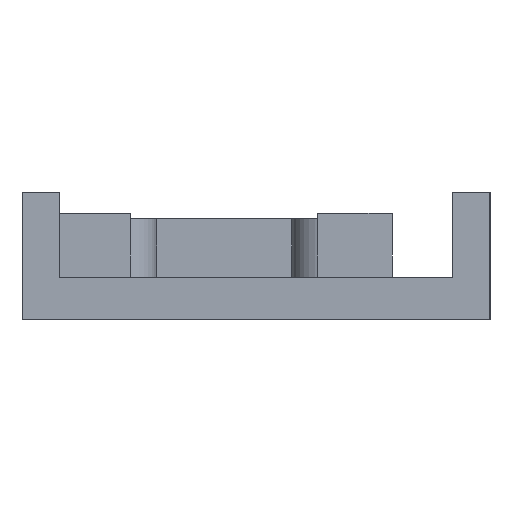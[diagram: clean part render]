
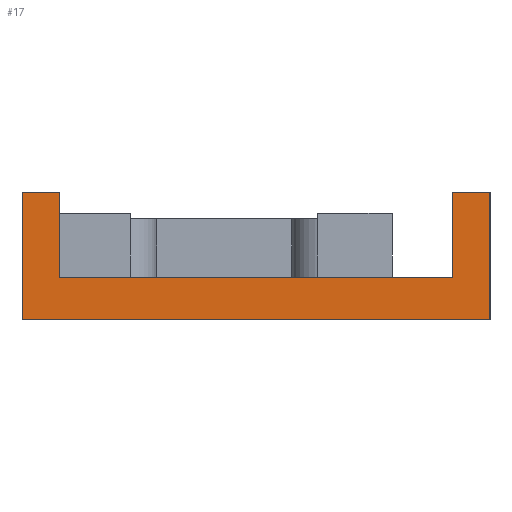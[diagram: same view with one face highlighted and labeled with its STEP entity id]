
A CAD part, left-side view. The second image highlights one B-rep face of the part: STEP entity #17.
In plain terms, the highlighted planar face has unit normal (-1, 0, 0).
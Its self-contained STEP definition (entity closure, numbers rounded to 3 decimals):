
#17 = ADVANCED_FACE('',(#18),#32,.F.);
#18 = FACE_BOUND('',#19,.F.);
#19 = EDGE_LOOP('',(#20,#55,#83,#111,#139,#167,#195,#223));
#20 = ORIENTED_EDGE('',*,*,#21,.F.);
#21 = EDGE_CURVE('',#22,#24,#26,.T.);
#22 = VERTEX_POINT('',#23);
#23 = CARTESIAN_POINT('',(-11.5,-1.1,0.));
#24 = VERTEX_POINT('',#25);
#25 = CARTESIAN_POINT('',(-11.5,-1.1,12.));
#26 = SURFACE_CURVE('',#27,(#31,#43),.PCURVE_S1.);
#27 = LINE('',#28,#29);
#28 = CARTESIAN_POINT('',(-11.5,-1.1,0.));
#29 = VECTOR('',#30,1.);
#30 = DIRECTION('',(0.,0.,1.));
#31 = PCURVE('',#32,#37);
#32 = PLANE('',#33);
#33 = AXIS2_PLACEMENT_3D('',#34,#35,#36);
#34 = CARTESIAN_POINT('',(-11.5,-1.1,0.));
#35 = DIRECTION('',(1.,0.,-0.));
#36 = DIRECTION('',(0.,0.,1.));
#37 = DEFINITIONAL_REPRESENTATION('',(#38),#42);
#38 = LINE('',#39,#40);
#39 = CARTESIAN_POINT('',(0.,0.));
#40 = VECTOR('',#41,1.);
#41 = DIRECTION('',(1.,0.));
#42 = ( GEOMETRIC_REPRESENTATION_CONTEXT(2) 
PARAMETRIC_REPRESENTATION_CONTEXT() REPRESENTATION_CONTEXT('2D SPACE',''
  ) );
#43 = PCURVE('',#44,#49);
#44 = PLANE('',#45);
#45 = AXIS2_PLACEMENT_3D('',#46,#47,#48);
#46 = CARTESIAN_POINT('',(-11.5,-1.1,0.));
#47 = DIRECTION('',(-0.,1.,0.));
#48 = DIRECTION('',(0.,0.,1.));
#49 = DEFINITIONAL_REPRESENTATION('',(#50),#54);
#50 = LINE('',#51,#52);
#51 = CARTESIAN_POINT('',(0.,0.));
#52 = VECTOR('',#53,1.);
#53 = DIRECTION('',(1.,0.));
#54 = ( GEOMETRIC_REPRESENTATION_CONTEXT(2) 
PARAMETRIC_REPRESENTATION_CONTEXT() REPRESENTATION_CONTEXT('2D SPACE',''
  ) );
#55 = ORIENTED_EDGE('',*,*,#56,.T.);
#56 = EDGE_CURVE('',#22,#57,#59,.T.);
#57 = VERTEX_POINT('',#58);
#58 = CARTESIAN_POINT('',(-11.5,42.9,0.));
#59 = SURFACE_CURVE('',#60,(#64,#71),.PCURVE_S1.);
#60 = LINE('',#61,#62);
#61 = CARTESIAN_POINT('',(-11.5,-1.1,0.));
#62 = VECTOR('',#63,1.);
#63 = DIRECTION('',(-0.,1.,0.));
#64 = PCURVE('',#32,#65);
#65 = DEFINITIONAL_REPRESENTATION('',(#66),#70);
#66 = LINE('',#67,#68);
#67 = CARTESIAN_POINT('',(0.,0.));
#68 = VECTOR('',#69,1.);
#69 = DIRECTION('',(0.,-1.));
#70 = ( GEOMETRIC_REPRESENTATION_CONTEXT(2) 
PARAMETRIC_REPRESENTATION_CONTEXT() REPRESENTATION_CONTEXT('2D SPACE',''
  ) );
#71 = PCURVE('',#72,#77);
#72 = PLANE('',#73);
#73 = AXIS2_PLACEMENT_3D('',#74,#75,#76);
#74 = CARTESIAN_POINT('',(-11.5,-1.1,0.));
#75 = DIRECTION('',(0.,0.,1.));
#76 = DIRECTION('',(1.,0.,-0.));
#77 = DEFINITIONAL_REPRESENTATION('',(#78),#82);
#78 = LINE('',#79,#80);
#79 = CARTESIAN_POINT('',(0.,0.));
#80 = VECTOR('',#81,1.);
#81 = DIRECTION('',(0.,1.));
#82 = ( GEOMETRIC_REPRESENTATION_CONTEXT(2) 
PARAMETRIC_REPRESENTATION_CONTEXT() REPRESENTATION_CONTEXT('2D SPACE',''
  ) );
#83 = ORIENTED_EDGE('',*,*,#84,.F.);
#84 = EDGE_CURVE('',#85,#57,#87,.T.);
#85 = VERTEX_POINT('',#86);
#86 = CARTESIAN_POINT('',(-11.5,42.9,12.));
#87 = SURFACE_CURVE('',#88,(#92,#99),.PCURVE_S1.);
#88 = LINE('',#89,#90);
#89 = CARTESIAN_POINT('',(-11.5,42.9,12.));
#90 = VECTOR('',#91,1.);
#91 = DIRECTION('',(0.,0.,-1.));
#92 = PCURVE('',#32,#93);
#93 = DEFINITIONAL_REPRESENTATION('',(#94),#98);
#94 = LINE('',#95,#96);
#95 = CARTESIAN_POINT('',(12.,-44.));
#96 = VECTOR('',#97,1.);
#97 = DIRECTION('',(-1.,0.));
#98 = ( GEOMETRIC_REPRESENTATION_CONTEXT(2) 
PARAMETRIC_REPRESENTATION_CONTEXT() REPRESENTATION_CONTEXT('2D SPACE',''
  ) );
#99 = PCURVE('',#100,#105);
#100 = PLANE('',#101);
#101 = AXIS2_PLACEMENT_3D('',#102,#103,#104);
#102 = CARTESIAN_POINT('',(-11.5,42.9,0.));
#103 = DIRECTION('',(-0.,1.,0.));
#104 = DIRECTION('',(0.,0.,1.));
#105 = DEFINITIONAL_REPRESENTATION('',(#106),#110);
#106 = LINE('',#107,#108);
#107 = CARTESIAN_POINT('',(12.,0.));
#108 = VECTOR('',#109,1.);
#109 = DIRECTION('',(-1.,0.));
#110 = ( GEOMETRIC_REPRESENTATION_CONTEXT(2) 
PARAMETRIC_REPRESENTATION_CONTEXT() REPRESENTATION_CONTEXT('2D SPACE',''
  ) );
#111 = ORIENTED_EDGE('',*,*,#112,.F.);
#112 = EDGE_CURVE('',#113,#85,#115,.T.);
#113 = VERTEX_POINT('',#114);
#114 = CARTESIAN_POINT('',(-11.5,39.4,12.));
#115 = SURFACE_CURVE('',#116,(#120,#127),.PCURVE_S1.);
#116 = LINE('',#117,#118);
#117 = CARTESIAN_POINT('',(-11.5,39.4,12.));
#118 = VECTOR('',#119,1.);
#119 = DIRECTION('',(-0.,1.,0.));
#120 = PCURVE('',#32,#121);
#121 = DEFINITIONAL_REPRESENTATION('',(#122),#126);
#122 = LINE('',#123,#124);
#123 = CARTESIAN_POINT('',(12.,-40.5));
#124 = VECTOR('',#125,1.);
#125 = DIRECTION('',(0.,-1.));
#126 = ( GEOMETRIC_REPRESENTATION_CONTEXT(2) 
PARAMETRIC_REPRESENTATION_CONTEXT() REPRESENTATION_CONTEXT('2D SPACE',''
  ) );
#127 = PCURVE('',#128,#133);
#128 = PLANE('',#129);
#129 = AXIS2_PLACEMENT_3D('',#130,#131,#132);
#130 = CARTESIAN_POINT('',(-11.5,39.4,12.));
#131 = DIRECTION('',(0.,0.,1.));
#132 = DIRECTION('',(1.,0.,-0.));
#133 = DEFINITIONAL_REPRESENTATION('',(#134),#138);
#134 = LINE('',#135,#136);
#135 = CARTESIAN_POINT('',(0.,0.));
#136 = VECTOR('',#137,1.);
#137 = DIRECTION('',(0.,1.));
#138 = ( GEOMETRIC_REPRESENTATION_CONTEXT(2) 
PARAMETRIC_REPRESENTATION_CONTEXT() REPRESENTATION_CONTEXT('2D SPACE',''
  ) );
#139 = ORIENTED_EDGE('',*,*,#140,.F.);
#140 = EDGE_CURVE('',#141,#113,#143,.T.);
#141 = VERTEX_POINT('',#142);
#142 = CARTESIAN_POINT('',(-11.5,39.4,4.));
#143 = SURFACE_CURVE('',#144,(#148,#155),.PCURVE_S1.);
#144 = LINE('',#145,#146);
#145 = CARTESIAN_POINT('',(-11.5,39.4,4.));
#146 = VECTOR('',#147,1.);
#147 = DIRECTION('',(0.,0.,1.));
#148 = PCURVE('',#32,#149);
#149 = DEFINITIONAL_REPRESENTATION('',(#150),#154);
#150 = LINE('',#151,#152);
#151 = CARTESIAN_POINT('',(4.,-40.5));
#152 = VECTOR('',#153,1.);
#153 = DIRECTION('',(1.,0.));
#154 = ( GEOMETRIC_REPRESENTATION_CONTEXT(2) 
PARAMETRIC_REPRESENTATION_CONTEXT() REPRESENTATION_CONTEXT('2D SPACE',''
  ) );
#155 = PCURVE('',#156,#161);
#156 = PLANE('',#157);
#157 = AXIS2_PLACEMENT_3D('',#158,#159,#160);
#158 = CARTESIAN_POINT('',(-11.5,39.4,4.));
#159 = DIRECTION('',(-0.,1.,0.));
#160 = DIRECTION('',(0.,0.,1.));
#161 = DEFINITIONAL_REPRESENTATION('',(#162),#166);
#162 = LINE('',#163,#164);
#163 = CARTESIAN_POINT('',(0.,0.));
#164 = VECTOR('',#165,1.);
#165 = DIRECTION('',(1.,0.));
#166 = ( GEOMETRIC_REPRESENTATION_CONTEXT(2) 
PARAMETRIC_REPRESENTATION_CONTEXT() REPRESENTATION_CONTEXT('2D SPACE',''
  ) );
#167 = ORIENTED_EDGE('',*,*,#168,.F.);
#168 = EDGE_CURVE('',#169,#141,#171,.T.);
#169 = VERTEX_POINT('',#170);
#170 = CARTESIAN_POINT('',(-11.5,2.4,4.));
#171 = SURFACE_CURVE('',#172,(#176,#183),.PCURVE_S1.);
#172 = LINE('',#173,#174);
#173 = CARTESIAN_POINT('',(-11.5,-1.1,4.));
#174 = VECTOR('',#175,1.);
#175 = DIRECTION('',(-0.,1.,0.));
#176 = PCURVE('',#32,#177);
#177 = DEFINITIONAL_REPRESENTATION('',(#178),#182);
#178 = LINE('',#179,#180);
#179 = CARTESIAN_POINT('',(4.,0.));
#180 = VECTOR('',#181,1.);
#181 = DIRECTION('',(0.,-1.));
#182 = ( GEOMETRIC_REPRESENTATION_CONTEXT(2) 
PARAMETRIC_REPRESENTATION_CONTEXT() REPRESENTATION_CONTEXT('2D SPACE',''
  ) );
#183 = PCURVE('',#184,#189);
#184 = PLANE('',#185);
#185 = AXIS2_PLACEMENT_3D('',#186,#187,#188);
#186 = CARTESIAN_POINT('',(-11.5,-1.1,4.));
#187 = DIRECTION('',(0.,0.,1.));
#188 = DIRECTION('',(1.,0.,-0.));
#189 = DEFINITIONAL_REPRESENTATION('',(#190),#194);
#190 = LINE('',#191,#192);
#191 = CARTESIAN_POINT('',(0.,0.));
#192 = VECTOR('',#193,1.);
#193 = DIRECTION('',(0.,1.));
#194 = ( GEOMETRIC_REPRESENTATION_CONTEXT(2) 
PARAMETRIC_REPRESENTATION_CONTEXT() REPRESENTATION_CONTEXT('2D SPACE',''
  ) );
#195 = ORIENTED_EDGE('',*,*,#196,.T.);
#196 = EDGE_CURVE('',#169,#197,#199,.T.);
#197 = VERTEX_POINT('',#198);
#198 = CARTESIAN_POINT('',(-11.5,2.4,12.));
#199 = SURFACE_CURVE('',#200,(#204,#211),.PCURVE_S1.);
#200 = LINE('',#201,#202);
#201 = CARTESIAN_POINT('',(-11.5,2.4,4.));
#202 = VECTOR('',#203,1.);
#203 = DIRECTION('',(0.,0.,1.));
#204 = PCURVE('',#32,#205);
#205 = DEFINITIONAL_REPRESENTATION('',(#206),#210);
#206 = LINE('',#207,#208);
#207 = CARTESIAN_POINT('',(4.,-3.5));
#208 = VECTOR('',#209,1.);
#209 = DIRECTION('',(1.,0.));
#210 = ( GEOMETRIC_REPRESENTATION_CONTEXT(2) 
PARAMETRIC_REPRESENTATION_CONTEXT() REPRESENTATION_CONTEXT('2D SPACE',''
  ) );
#211 = PCURVE('',#212,#217);
#212 = PLANE('',#213);
#213 = AXIS2_PLACEMENT_3D('',#214,#215,#216);
#214 = CARTESIAN_POINT('',(-11.5,2.4,4.));
#215 = DIRECTION('',(-0.,1.,0.));
#216 = DIRECTION('',(0.,0.,1.));
#217 = DEFINITIONAL_REPRESENTATION('',(#218),#222);
#218 = LINE('',#219,#220);
#219 = CARTESIAN_POINT('',(0.,0.));
#220 = VECTOR('',#221,1.);
#221 = DIRECTION('',(1.,0.));
#222 = ( GEOMETRIC_REPRESENTATION_CONTEXT(2) 
PARAMETRIC_REPRESENTATION_CONTEXT() REPRESENTATION_CONTEXT('2D SPACE',''
  ) );
#223 = ORIENTED_EDGE('',*,*,#224,.F.);
#224 = EDGE_CURVE('',#24,#197,#225,.T.);
#225 = SURFACE_CURVE('',#226,(#230,#237),.PCURVE_S1.);
#226 = LINE('',#227,#228);
#227 = CARTESIAN_POINT('',(-11.5,-1.1,12.));
#228 = VECTOR('',#229,1.);
#229 = DIRECTION('',(-0.,1.,0.));
#230 = PCURVE('',#32,#231);
#231 = DEFINITIONAL_REPRESENTATION('',(#232),#236);
#232 = LINE('',#233,#234);
#233 = CARTESIAN_POINT('',(12.,0.));
#234 = VECTOR('',#235,1.);
#235 = DIRECTION('',(0.,-1.));
#236 = ( GEOMETRIC_REPRESENTATION_CONTEXT(2) 
PARAMETRIC_REPRESENTATION_CONTEXT() REPRESENTATION_CONTEXT('2D SPACE',''
  ) );
#237 = PCURVE('',#238,#243);
#238 = PLANE('',#239);
#239 = AXIS2_PLACEMENT_3D('',#240,#241,#242);
#240 = CARTESIAN_POINT('',(-11.5,-1.1,12.));
#241 = DIRECTION('',(0.,0.,1.));
#242 = DIRECTION('',(1.,0.,-0.));
#243 = DEFINITIONAL_REPRESENTATION('',(#244),#248);
#244 = LINE('',#245,#246);
#245 = CARTESIAN_POINT('',(0.,0.));
#246 = VECTOR('',#247,1.);
#247 = DIRECTION('',(0.,1.));
#248 = ( GEOMETRIC_REPRESENTATION_CONTEXT(2) 
PARAMETRIC_REPRESENTATION_CONTEXT() REPRESENTATION_CONTEXT('2D SPACE',''
  ) );
